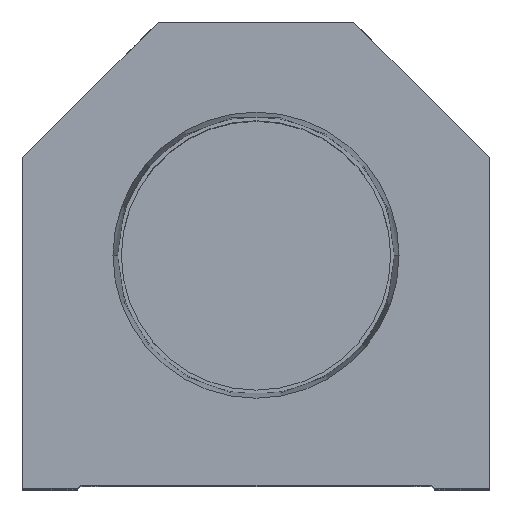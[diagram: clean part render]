
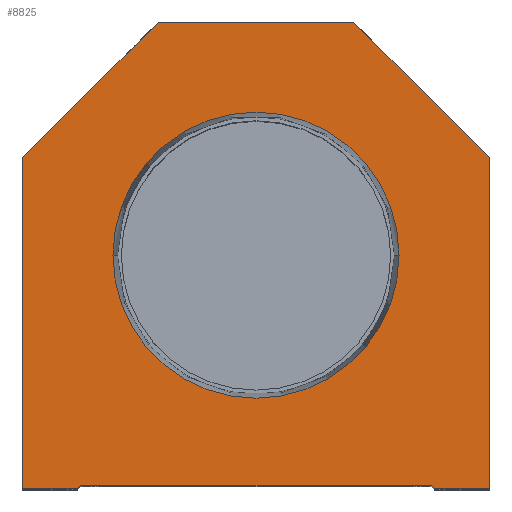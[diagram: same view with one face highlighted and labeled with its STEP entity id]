
A CAD part, top view. The second image highlights one B-rep face of the part: STEP entity #8825.
In plain terms, the highlighted planar face has unit normal (0, 0, 1).
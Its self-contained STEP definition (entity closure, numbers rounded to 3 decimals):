
#105 = AXIS2_PLACEMENT_3D ( 'NONE', #10584, #3154, #9116 ) ;
#141 = DIRECTION ( 'NONE',  ( -1., 0., 0. ) ) ;
#258 = CARTESIAN_POINT ( 'NONE',  ( 38.1, 54.1, 0. ) ) ;
#270 = VERTEX_POINT ( 'NONE', #14433 ) ;
#288 = CIRCLE ( 'NONE', #887, 23.374 ) ;
#461 = EDGE_LOOP ( 'NONE', ( #12301, #15909 ) ) ;
#682 = CARTESIAN_POINT ( 'NONE',  ( -29.1, 0., 0. ) ) ;
#715 = ORIENTED_EDGE ( 'NONE', *, *, #14359, .T. ) ;
#887 = AXIS2_PLACEMENT_3D ( 'NONE', #1050, #11607, #11509 ) ;
#1050 = CARTESIAN_POINT ( 'NONE',  ( 0., 38.1, 0. ) ) ;
#1108 = VERTEX_POINT ( 'NONE', #5820 ) ;
#1594 = VERTEX_POINT ( 'NONE', #6287 ) ;
#2009 = EDGE_CURVE ( 'NONE', #15791, #11010, #11801, .T. ) ;
#2066 = LINE ( 'NONE', #5005, #3635 ) ;
#2079 = VERTEX_POINT ( 'NONE', #12604 ) ;
#2170 = VERTEX_POINT ( 'NONE', #5611 ) ;
#2434 = LINE ( 'NONE', #10055, #4128 ) ;
#2694 = VERTEX_POINT ( 'NONE', #12032 ) ;
#2831 = CARTESIAN_POINT ( 'NONE',  ( -23.374, 38.1, 0. ) ) ;
#2972 = CARTESIAN_POINT ( 'NONE',  ( -28.6, 0.5, 0. ) ) ;
#3016 = EDGE_CURVE ( 'NONE', #1108, #18571, #16628, .T. ) ;
#3039 = LINE ( 'NONE', #13554, #13574 ) ;
#3154 = DIRECTION ( 'NONE',  ( 0., 0., 1. ) ) ;
#3172 = CARTESIAN_POINT ( 'NONE',  ( -28.6, 0., 0. ) ) ;
#3193 = CIRCLE ( 'NONE', #105, 23.374 ) ;
#3597 = CARTESIAN_POINT ( 'NONE',  ( 28.6, 0., 0. ) ) ;
#3635 = VECTOR ( 'NONE', #16883, 1000. ) ;
#3901 = AXIS2_PLACEMENT_3D ( 'NONE', #18361, #10872, #6281 ) ;
#3912 = ORIENTED_EDGE ( 'NONE', *, *, #2009, .T. ) ;
#4128 = VECTOR ( 'NONE', #17553, 1000. ) ;
#4173 = ORIENTED_EDGE ( 'NONE', *, *, #10786, .T. ) ;
#4305 = VECTOR ( 'NONE', #8559, 1000. ) ;
#4925 = ORIENTED_EDGE ( 'NONE', *, *, #15704, .T. ) ;
#5005 = CARTESIAN_POINT ( 'NONE',  ( -38.1, 54.1, 0. ) ) ;
#5611 = CARTESIAN_POINT ( 'NONE',  ( 29.1, 0., 0. ) ) ;
#5820 = CARTESIAN_POINT ( 'NONE',  ( -38.1, 0., 0. ) ) ;
#5831 = ORIENTED_EDGE ( 'NONE', *, *, #7290, .T. ) ;
#6228 = DIRECTION ( 'NONE',  ( 1., 0., 0. ) ) ;
#6281 = DIRECTION ( 'NONE',  ( 1., 0., 0. ) ) ;
#6287 = CARTESIAN_POINT ( 'NONE',  ( -38.1, 54.1, 0. ) ) ;
#6577 = EDGE_CURVE ( 'NONE', #2694, #16505, #3193, .T. ) ;
#6914 = ORIENTED_EDGE ( 'NONE', *, *, #3016, .T. ) ;
#7290 = EDGE_CURVE ( 'NONE', #2079, #12766, #3039, .T. ) ;
#7763 = ORIENTED_EDGE ( 'NONE', *, *, #11149, .T. ) ;
#8139 = CARTESIAN_POINT ( 'NONE',  ( 14.55, 14.55, 0. ) ) ;
#8559 = DIRECTION ( 'NONE',  ( 0., 1., 0. ) ) ;
#8666 = ORIENTED_EDGE ( 'NONE', *, *, #13058, .T. ) ;
#8825 = ADVANCED_FACE ( 'NONE', ( #16680, #12357 ), #16486, .T. ) ;
#9116 = DIRECTION ( 'NONE',  ( 1., 0., 0. ) ) ;
#9225 = LINE ( 'NONE', #258, #11435 ) ;
#9366 = DIRECTION ( 'NONE',  ( 1., 0., 0. ) ) ;
#9594 = EDGE_CURVE ( 'NONE', #270, #2079, #9225, .T. ) ;
#10055 = CARTESIAN_POINT ( 'NONE',  ( -14.55, 14.55, 0. ) ) ;
#10506 = DIRECTION ( 'NONE',  ( 1., 0., 0. ) ) ;
#10584 = CARTESIAN_POINT ( 'NONE',  ( 0., 38.1, 0. ) ) ;
#10786 = EDGE_CURVE ( 'NONE', #1594, #1108, #16193, .T. ) ;
#10842 = EDGE_CURVE ( 'NONE', #12766, #1594, #2066, .T. ) ;
#10872 = DIRECTION ( 'NONE',  ( 0., 0., 1. ) ) ;
#11010 = VERTEX_POINT ( 'NONE', #12848 ) ;
#11149 = EDGE_CURVE ( 'NONE', #15423, #270, #14774, .T. ) ;
#11171 = EDGE_CURVE ( 'NONE', #16505, #2694, #288, .T. ) ;
#11435 = VECTOR ( 'NONE', #12591, 1000. ) ;
#11509 = DIRECTION ( 'NONE',  ( 1., 0., 0. ) ) ;
#11607 = DIRECTION ( 'NONE',  ( 0., 0., 1. ) ) ;
#11647 = VECTOR ( 'NONE', #10506, 1000. ) ;
#11801 = LINE ( 'NONE', #2972, #11647 ) ;
#11851 = ORIENTED_EDGE ( 'NONE', *, *, #9594, .T. ) ;
#11896 = VECTOR ( 'NONE', #6228, 1000. ) ;
#12032 = CARTESIAN_POINT ( 'NONE',  ( 23.374, 38.1, 0. ) ) ;
#12301 = ORIENTED_EDGE ( 'NONE', *, *, #6577, .F. ) ;
#12357 = FACE_OUTER_BOUND ( 'NONE', #18129, .T. ) ;
#12591 = DIRECTION ( 'NONE',  ( -0.707, 0.707, 0. ) ) ;
#12604 = CARTESIAN_POINT ( 'NONE',  ( 16., 76.2, 0. ) ) ;
#12766 = VERTEX_POINT ( 'NONE', #18706 ) ;
#12848 = CARTESIAN_POINT ( 'NONE',  ( 28.6, 0.5, 0. ) ) ;
#13058 = EDGE_CURVE ( 'NONE', #11010, #2170, #15637, .T. ) ;
#13155 = DIRECTION ( 'NONE',  ( 0., -1., 0. ) ) ;
#13554 = CARTESIAN_POINT ( 'NONE',  ( 16., 76.2, 0. ) ) ;
#13574 = VECTOR ( 'NONE', #141, 1000. ) ;
#14083 = ORIENTED_EDGE ( 'NONE', *, *, #10842, .T. ) ;
#14359 = EDGE_CURVE ( 'NONE', #2170, #15423, #16862, .T. ) ;
#14433 = CARTESIAN_POINT ( 'NONE',  ( 38.1, 54.1, 0. ) ) ;
#14774 = LINE ( 'NONE', #19199, #4305 ) ;
#15376 = CARTESIAN_POINT ( 'NONE',  ( 38.1, 0., 0. ) ) ;
#15423 = VERTEX_POINT ( 'NONE', #15376 ) ;
#15637 = LINE ( 'NONE', #8139, #18782 ) ;
#15704 = EDGE_CURVE ( 'NONE', #18571, #15791, #2434, .T. ) ;
#15791 = VERTEX_POINT ( 'NONE', #16962 ) ;
#15909 = ORIENTED_EDGE ( 'NONE', *, *, #11171, .F. ) ;
#16100 = CARTESIAN_POINT ( 'NONE',  ( -38.1, 0., 0. ) ) ;
#16193 = LINE ( 'NONE', #16100, #19342 ) ;
#16486 = PLANE ( 'NONE',  #3901 ) ;
#16505 = VERTEX_POINT ( 'NONE', #2831 ) ;
#16628 = LINE ( 'NONE', #3172, #11896 ) ;
#16680 = FACE_BOUND ( 'NONE', #461, .T. ) ;
#16862 = LINE ( 'NONE', #3597, #18207 ) ;
#16883 = DIRECTION ( 'NONE',  ( -0.707, -0.707, 0. ) ) ;
#16962 = CARTESIAN_POINT ( 'NONE',  ( -28.6, 0.5, 0. ) ) ;
#17553 = DIRECTION ( 'NONE',  ( 0.707, 0.707, 0. ) ) ;
#18129 = EDGE_LOOP ( 'NONE', ( #6914, #4925, #3912, #8666, #715, #7763, #11851, #5831, #14083, #4173 ) ) ;
#18207 = VECTOR ( 'NONE', #9366, 1000. ) ;
#18361 = CARTESIAN_POINT ( 'NONE',  ( 0., 0., 0. ) ) ;
#18571 = VERTEX_POINT ( 'NONE', #682 ) ;
#18706 = CARTESIAN_POINT ( 'NONE',  ( -16., 76.2, 0. ) ) ;
#18766 = DIRECTION ( 'NONE',  ( 0.707, -0.707, 0. ) ) ;
#18782 = VECTOR ( 'NONE', #18766, 1000. ) ;
#19199 = CARTESIAN_POINT ( 'NONE',  ( 38.1, 0., 0. ) ) ;
#19342 = VECTOR ( 'NONE', #13155, 1000. ) ;
